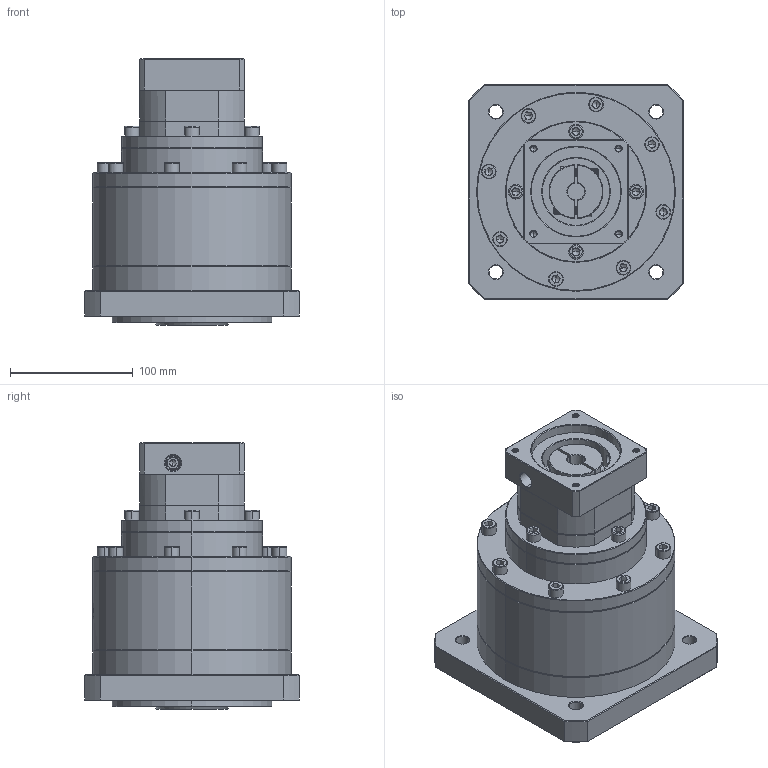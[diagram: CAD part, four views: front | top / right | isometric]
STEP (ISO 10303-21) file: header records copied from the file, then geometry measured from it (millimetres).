
FILE_DESCRIPTION (( 'STEP AP214' ), '1' );
FILE_NAME ('ZF160A-K35-L3-P2-14-73-69.6X69.6-M6.step', '2023-09-03T08:16:54', ( '' ), ( '' ), 'SwSTEP 2.0', 'SolidWorks 2016', '' );
FILE_SCHEMA (( 'AUTOMOTIVE_DESIGN' ));
Length unit declared in the file: millimetre
Products named in the file (1): ZF160A-K35-L3-P2-14-73-69.6X69.6-M6
Bounding box: 175 x 175 x 217.2 mm (x, y, z)
Volume: 3247660 mm3; surface area: 221895.5 mm2
Topology: 5 solids, 6 shells, 2360 faces, 6237 edges, 3997 vertices
Faces by surface type: plane 1138, cylinder 430, bspline 390, cone 343, torus 59
Entity records: 123437 total; most frequent: CARTESIAN_POINT 43973, ORIENTED_EDGE 12370, DIRECTION 9442, EDGE_CURVE 6185, VERTEX_POINT 3997, LINE 3314, VECTOR 3314, AXIS2_PLACEMENT_3D 3064
